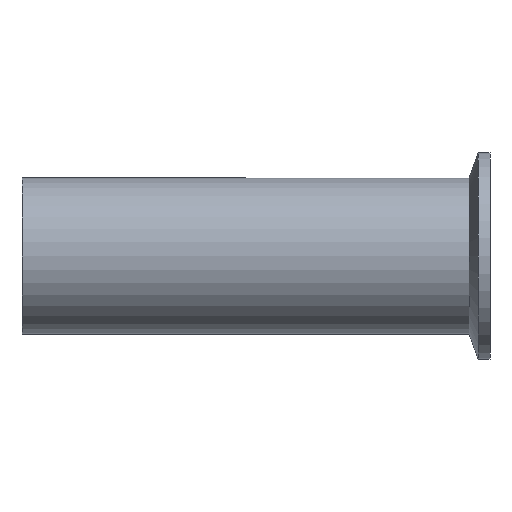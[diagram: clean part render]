
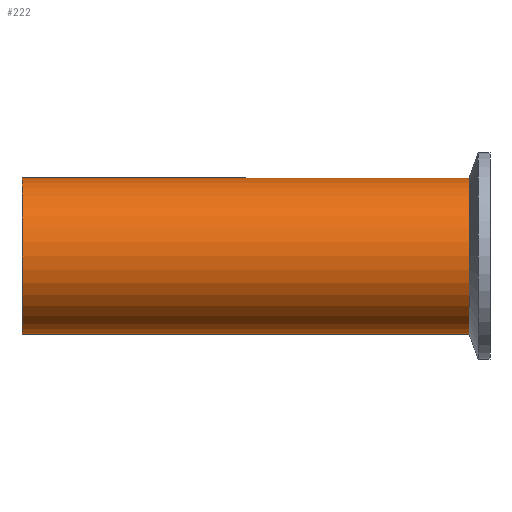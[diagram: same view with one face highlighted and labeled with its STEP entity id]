
A CAD part, left-side view. The second image highlights one B-rep face of the part: STEP entity #222.
In plain terms, the highlighted cylindrical face has radius 19.05 mm (diameter 38.1 mm), a partial arc.
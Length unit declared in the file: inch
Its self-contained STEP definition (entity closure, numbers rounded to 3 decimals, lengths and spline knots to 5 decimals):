
#7 = DIRECTION ( 'NONE',  ( 0., -1., 0. ) ) ;
#30 = LINE ( 'NONE', #304, #529 ) ;
#37 = CARTESIAN_POINT ( 'NONE',  ( 0., 4.5, 0. ) ) ;
#58 = ORIENTED_EDGE ( 'NONE', *, *, #137, .F. ) ;
#63 = LINE ( 'NONE', #153, #507 ) ;
#81 = CARTESIAN_POINT ( 'NONE',  ( 0., 0.20008, -0.75 ) ) ;
#86 = CARTESIAN_POINT ( 'NONE',  ( 0., 4.5, -0.75 ) ) ;
#125 = DIRECTION ( 'NONE',  ( 0., -1., 0. ) ) ;
#137 = EDGE_CURVE ( 'NONE', #228, #290, #30, .T. ) ;
#139 = EDGE_CURVE ( 'NONE', #195, #257, #63, .T. ) ;
#152 = DIRECTION ( 'NONE',  ( 0., 0., -1. ) ) ;
#153 = CARTESIAN_POINT ( 'NONE',  ( 0., 0., -0.75 ) ) ;
#195 = VERTEX_POINT ( 'NONE', #86 ) ;
#198 = DIRECTION ( 'NONE',  ( 0., 0., -1. ) ) ;
#200 = DIRECTION ( 'NONE',  ( 0., -1., 0. ) ) ;
#201 = CARTESIAN_POINT ( 'NONE',  ( 0., 0.20008, 0.75 ) ) ;
#205 = DIRECTION ( 'NONE',  ( 0., -1., 0. ) ) ;
#208 = EDGE_LOOP ( 'NONE', ( #58, #397, #324, #266 ) ) ;
#222 = ADVANCED_FACE ( 'NONE', ( #479 ), #475, .T. ) ;
#228 = VERTEX_POINT ( 'NONE', #453 ) ;
#239 = CARTESIAN_POINT ( 'NONE',  ( 0., 0., 0. ) ) ;
#257 = VERTEX_POINT ( 'NONE', #81 ) ;
#266 = ORIENTED_EDGE ( 'NONE', *, *, #536, .F. ) ;
#290 = VERTEX_POINT ( 'NONE', #201 ) ;
#293 = DIRECTION ( 'NONE',  ( 0., 0., -1. ) ) ;
#303 = AXIS2_PLACEMENT_3D ( 'NONE', #447, #200, #198 ) ;
#304 = CARTESIAN_POINT ( 'NONE',  ( 0., 0., 0.75 ) ) ;
#324 = ORIENTED_EDGE ( 'NONE', *, *, #139, .T. ) ;
#382 = AXIS2_PLACEMENT_3D ( 'NONE', #37, #7, #293 ) ;
#397 = ORIENTED_EDGE ( 'NONE', *, *, #524, .T. ) ;
#432 = AXIS2_PLACEMENT_3D ( 'NONE', #239, #521, #152 ) ;
#444 = CIRCLE ( 'NONE', #382, 0.75 ) ;
#445 = CIRCLE ( 'NONE', #303, 0.75 ) ;
#447 = CARTESIAN_POINT ( 'NONE',  ( 0., 0.20008, 0. ) ) ;
#453 = CARTESIAN_POINT ( 'NONE',  ( 0., 4.5, 0.75 ) ) ;
#475 = CYLINDRICAL_SURFACE ( 'NONE', #432, 0.75 ) ;
#479 = FACE_OUTER_BOUND ( 'NONE', #208, .T. ) ;
#507 = VECTOR ( 'NONE', #125, 39.37008 ) ;
#521 = DIRECTION ( 'NONE',  ( 0., -1., 0. ) ) ;
#524 = EDGE_CURVE ( 'NONE', #228, #195, #444, .T. ) ;
#529 = VECTOR ( 'NONE', #205, 39.37008 ) ;
#536 = EDGE_CURVE ( 'NONE', #290, #257, #445, .T. ) ;
